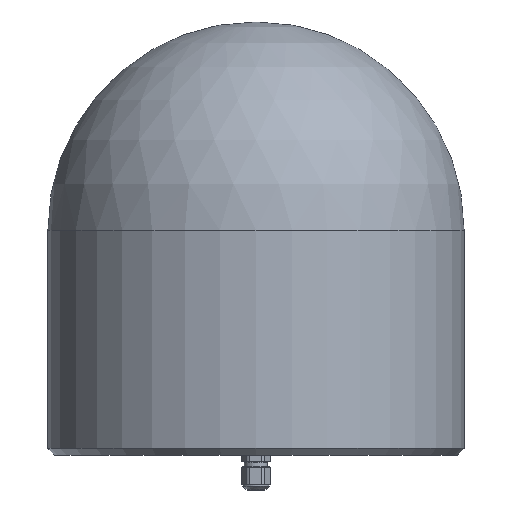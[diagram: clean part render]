
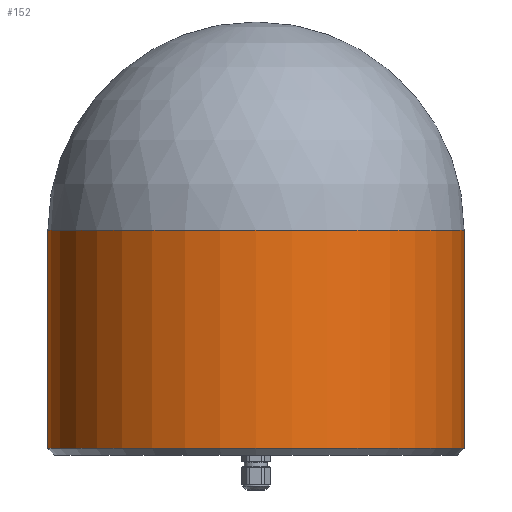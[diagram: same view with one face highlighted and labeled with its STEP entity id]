
A CAD part, left-side view. The second image highlights one B-rep face of the part: STEP entity #152.
In plain terms, the highlighted cylindrical face has radius 92.5 mm (diameter 185 mm), a partial arc.
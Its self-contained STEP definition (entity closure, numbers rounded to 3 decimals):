
#1=CARTESIAN_POINT('',(0.,0.,0.));
#2=DIRECTION('',(0.,0.,1.));
#3=DIRECTION('',(0.,1.,0.));
#4=AXIS2_PLACEMENT_3D('',#1,#2,#3);
#26=DIRECTION('',(0.,0.,1.));
#27=VECTOR('',#26,97.);
#28=CARTESIAN_POINT('',(0.,-92.5,-97.));
#29=LINE('',#28,#27);
#30=DIRECTION('',(0.,0.,1.));
#31=VECTOR('',#30,97.);
#32=CARTESIAN_POINT('',(0.,92.5,-97.));
#33=LINE('',#32,#31);
#42=CARTESIAN_POINT('',(0.,0.,-97.));
#43=DIRECTION('',(0.,0.,1.));
#44=DIRECTION('',(0.,1.,0.));
#45=AXIS2_PLACEMENT_3D('',#42,#43,#44);
#57=CARTESIAN_POINT('',(0.,92.5,0.));
#59=VERTEX_POINT('',#57);
#61=CARTESIAN_POINT('',(0.,-92.5,0.));
#62=VERTEX_POINT('',#61);
#63=CARTESIAN_POINT('',(0.,92.5,-97.));
#64=CARTESIAN_POINT('',(0.,-92.5,-97.));
#65=VERTEX_POINT('',#63);
#66=VERTEX_POINT('',#64);
#141=CARTESIAN_POINT('',(0.,0.,0.));
#142=DIRECTION('',(0.,0.,1.));
#143=DIRECTION('',(0.,1.,0.));
#144=AXIS2_PLACEMENT_3D('',#141,#142,#143);
#145=CYLINDRICAL_SURFACE('',#144,92.5);
#146=ORIENTED_EDGE('',*,*,#132,.F.);
#147=ORIENTED_EDGE('',*,*,#107,.T.);
#148=ORIENTED_EDGE('',*,*,#80,.T.);
#149=ORIENTED_EDGE('',*,*,#104,.F.);
#150=EDGE_LOOP('',(#146,#147,#148,#149));
#151=FACE_OUTER_BOUND('',#150,.F.);
#152=ADVANCED_FACE('',(#151),#145,.T.);
#5=CIRCLE('',#4,92.5);
#46=CIRCLE('',#45,92.5);
#80=EDGE_CURVE('',#59,#62,#5,.T.);
#104=EDGE_CURVE('',#66,#62,#29,.T.);
#107=EDGE_CURVE('',#65,#59,#33,.T.);
#132=EDGE_CURVE('',#65,#66,#46,.T.);
